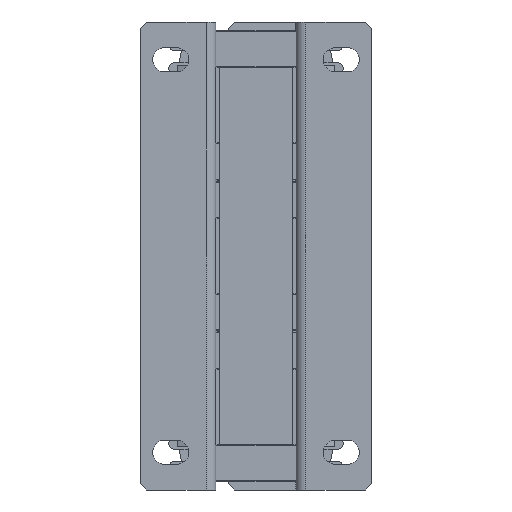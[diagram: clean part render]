
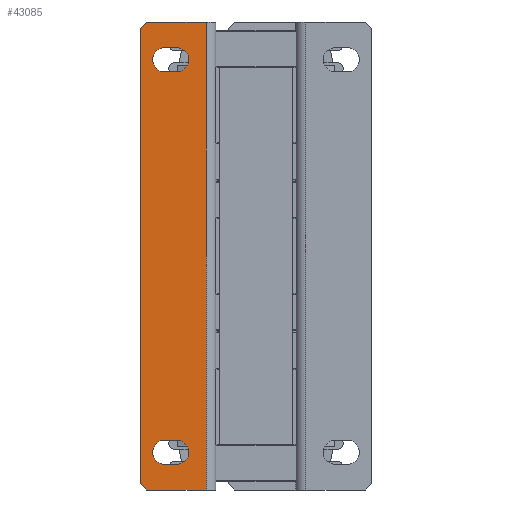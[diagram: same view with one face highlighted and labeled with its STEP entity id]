
A CAD part, front view. The second image highlights one B-rep face of the part: STEP entity #43085.
In plain terms, the highlighted planar face has unit normal (0, -1, 0) as drawn and (0, 0, 1) by its records, which use the part's own axes.
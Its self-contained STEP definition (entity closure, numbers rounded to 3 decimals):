
#62 = CARTESIAN_POINT ( 'NONE',  ( 142.5, 17., 0. ) ) ;
#64 = DIRECTION ( 'NONE',  ( 0., 0., -1. ) ) ;
#65 = DIRECTION ( 'NONE',  ( -1., 0., 0. ) ) ;
#118 = CARTESIAN_POINT ( 'NONE',  ( 138.5, 17., 0. ) ) ;
#119 = DIRECTION ( 'NONE',  ( 0., -1., 0. ) ) ;
#141 = CARTESIAN_POINT ( 'NONE',  ( 12.5, 13., 0. ) ) ;
#155 = DIRECTION ( 'NONE',  ( 0., 0., -1. ) ) ;
#156 = DIRECTION ( 'NONE',  ( -1., 0., 0. ) ) ;
#168 = CARTESIAN_POINT ( 'NONE',  ( 155., 25., 0. ) ) ;
#171 = DIRECTION ( 'NONE',  ( 0., 1., 0. ) ) ;
#4533 = VERTEX_POINT ( 'NONE', #18847 ) ;
#4535 = VERTEX_POINT ( 'NONE', #18967 ) ;
#4553 = VERTEX_POINT ( 'NONE', #18706 ) ;
#4577 = VERTEX_POINT ( 'NONE', #18814 ) ;
#4619 = VERTEX_POINT ( 'NONE', #19008 ) ;
#4635 = VERTEX_POINT ( 'NONE', #18742 ) ;
#4638 = VERTEX_POINT ( 'NONE', #18740 ) ;
#4712 = VERTEX_POINT ( 'NONE', #18718 ) ;
#4726 = LINE ( 'NONE', #44915, #4763 ) ;
#4763 = VECTOR ( 'NONE', #44917, 1000. ) ;
#4770 = VERTEX_POINT ( 'NONE', #18923 ) ;
#4782 = VERTEX_POINT ( 'NONE', #18834 ) ;
#4842 = LINE ( 'NONE', #44968, #4861 ) ;
#4861 = VECTOR ( 'NONE', #44973, 1000. ) ;
#4937 = VERTEX_POINT ( 'NONE', #18792 ) ;
#5007 = LINE ( 'NONE', #45061, #5037 ) ;
#5037 = VECTOR ( 'NONE', #45064, 1000. ) ;
#5100 = VERTEX_POINT ( 'NONE', #24919 ) ;
#5161 = VERTEX_POINT ( 'NONE', #25001 ) ;
#5218 = LINE ( 'NONE', #45211, #5219 ) ;
#5219 = VECTOR ( 'NONE', #45212, 1000. ) ;
#5278 = CIRCLE ( 'NONE', #17401, 4. ) ;
#5300 = LINE ( 'NONE', #118, #5301 ) ;
#5301 = VECTOR ( 'NONE', #119, 1000. ) ;
#5331 = LINE ( 'NONE', #168, #5341 ) ;
#5333 = CIRCLE ( 'NONE', #17414, 4. ) ;
#5341 = VECTOR ( 'NONE', #171, 1000. ) ;
#5500 = VECTOR ( 'NONE', #33834, 1000. ) ;
#5509 = LINE ( 'NONE', #33833, #5500 ) ;
#5513 = LINE ( 'NONE', #33838, #25493 ) ;
#6274 = PLANE ( 'NONE',  #17859 ) ;
#6283 = CARTESIAN_POINT ( 'NONE',  ( 0., 25., 0. ) ) ;
#6285 = DIRECTION ( 'NONE',  ( 0., 0., -1. ) ) ;
#6286 = DIRECTION ( 'NONE',  ( -1., 0., 0. ) ) ;
#13439 = ORIENTED_EDGE ( 'NONE', *, *, #40703, .F. ) ;
#13567 = ORIENTED_EDGE ( 'NONE', *, *, #40439, .T. ) ;
#13651 = ORIENTED_EDGE ( 'NONE', *, *, #40711, .T. ) ;
#13655 = ORIENTED_EDGE ( 'NONE', *, *, #40472, .T. ) ;
#13662 = ORIENTED_EDGE ( 'NONE', *, *, #40350, .T. ) ;
#13664 = ORIENTED_EDGE ( 'NONE', *, *, #40456, .F. ) ;
#13669 = ORIENTED_EDGE ( 'NONE', *, *, #40308, .T. ) ;
#13686 = ORIENTED_EDGE ( 'NONE', *, *, #40407, .T. ) ;
#13692 = ORIENTED_EDGE ( 'NONE', *, *, #40569, .T. ) ;
#15780 = ORIENTED_EDGE ( 'NONE', *, *, #40674, .F. ) ;
#15786 = ORIENTED_EDGE ( 'NONE', *, *, #40478, .T. ) ;
#17401 = AXIS2_PLACEMENT_3D ( 'NONE', #62, #64, #65 ) ;
#17414 = AXIS2_PLACEMENT_3D ( 'NONE', #141, #155, #156 ) ;
#17439 = AXIS2_PLACEMENT_3D ( 'NONE', #33821, #33836, #33837 ) ;
#17458 = AXIS2_PLACEMENT_3D ( 'NONE', #34124, #34152, #34153 ) ;
#17859 = AXIS2_PLACEMENT_3D ( 'NONE', #6283, #6285, #6286 ) ;
#18652 = VERTEX_POINT ( 'NONE', #19907 ) ;
#18706 = CARTESIAN_POINT ( 'NONE',  ( 146.5, 17., 0. ) ) ;
#18718 = CARTESIAN_POINT ( 'NONE',  ( 8.5, 13., 0. ) ) ;
#18740 = CARTESIAN_POINT ( 'NONE',  ( 153., 25., 0. ) ) ;
#18742 = CARTESIAN_POINT ( 'NONE',  ( 138.5, 13., 0. ) ) ;
#18792 = CARTESIAN_POINT ( 'NONE',  ( 155., 3.237, 0. ) ) ;
#18814 = CARTESIAN_POINT ( 'NONE',  ( 16.5, 13., 0. ) ) ;
#18834 = CARTESIAN_POINT ( 'NONE',  ( 138.5, 17., 0. ) ) ;
#18847 = CARTESIAN_POINT ( 'NONE',  ( 0., 3.237, 0. ) ) ;
#18923 = CARTESIAN_POINT ( 'NONE',  ( 146.5, 13., 0. ) ) ;
#18967 = CARTESIAN_POINT ( 'NONE',  ( 2., 25., 0. ) ) ;
#19008 = CARTESIAN_POINT ( 'NONE',  ( 0., 23., 0. ) ) ;
#19907 = CARTESIAN_POINT ( 'NONE',  ( 8.5, 17., 0. ) ) ;
#23557 = FACE_BOUND ( 'NONE', #35902, .T. ) ;
#23560 = FACE_OUTER_BOUND ( 'NONE', #35917, .T. ) ;
#23562 = FACE_BOUND ( 'NONE', #35895, .T. ) ;
#24919 = CARTESIAN_POINT ( 'NONE',  ( 155., 23., 0. ) ) ;
#25001 = CARTESIAN_POINT ( 'NONE',  ( 16.5, 17., 0. ) ) ;
#25483 = ORIENTED_EDGE ( 'NONE', *, *, #40284, .F. ) ;
#25493 = VECTOR ( 'NONE', #33839, 1000. ) ;
#25497 = CIRCLE ( 'NONE', #17439, 4. ) ;
#25790 = LINE ( 'NONE', #34085, #25798 ) ;
#25798 = VECTOR ( 'NONE', #34086, 1000. ) ;
#25918 = CIRCLE ( 'NONE', #17458, 4. ) ;
#25939 = LINE ( 'NONE', #34170, #25941 ) ;
#25941 = VECTOR ( 'NONE', #34171, 1000. ) ;
#33821 = CARTESIAN_POINT ( 'NONE',  ( 12.5, 17., 0. ) ) ;
#33833 = CARTESIAN_POINT ( 'NONE',  ( 0., 25., 0. ) ) ;
#33834 = DIRECTION ( 'NONE',  ( 0., -1., 0. ) ) ;
#33836 = DIRECTION ( 'NONE',  ( 0., 0., -1. ) ) ;
#33837 = DIRECTION ( 'NONE',  ( -1., 0., 0. ) ) ;
#33838 = CARTESIAN_POINT ( 'NONE',  ( 0., 25., 0. ) ) ;
#33839 = DIRECTION ( 'NONE',  ( -1., 0., 0. ) ) ;
#34085 = CARTESIAN_POINT ( 'NONE',  ( 0., 3.237, 0. ) ) ;
#34086 = DIRECTION ( 'NONE',  ( -1., 0., 0. ) ) ;
#34124 = CARTESIAN_POINT ( 'NONE',  ( 142.5, 13., 0. ) ) ;
#34152 = DIRECTION ( 'NONE',  ( 0., 0., 1. ) ) ;
#34153 = DIRECTION ( 'NONE',  ( 1., 0., 0. ) ) ;
#34170 = CARTESIAN_POINT ( 'NONE',  ( 16.5, 17., 0. ) ) ;
#34171 = DIRECTION ( 'NONE',  ( 0., -1., 0. ) ) ;
#35895 = EDGE_LOOP ( 'NONE', ( #13567, #13662, #13439, #13664 ) ) ;
#35902 = EDGE_LOOP ( 'NONE', ( #13692, #13651, #13655, #25483 ) ) ;
#35917 = EDGE_LOOP ( 'NONE', ( #15786, #13686, #39406, #13669, #39427, #15780 ) ) ;
#39406 = ORIENTED_EDGE ( 'NONE', *, *, #40570, .T. ) ;
#39427 = ORIENTED_EDGE ( 'NONE', *, *, #40568, .T. ) ;
#40284 = EDGE_CURVE ( 'NONE', #18652, #4712, #4726, .T. ) ;
#40308 = EDGE_CURVE ( 'NONE', #4535, #4619, #4842, .T. ) ;
#40350 = EDGE_CURVE ( 'NONE', #4553, #4770, #5007, .T. ) ;
#40407 = EDGE_CURVE ( 'NONE', #5100, #4638, #5218, .T. ) ;
#40439 = EDGE_CURVE ( 'NONE', #4782, #4553, #5278, .T. ) ;
#40456 = EDGE_CURVE ( 'NONE', #4782, #4635, #5300, .T. ) ;
#40472 = EDGE_CURVE ( 'NONE', #4577, #4712, #5333, .T. ) ;
#40478 = EDGE_CURVE ( 'NONE', #4937, #5100, #5331, .T. ) ;
#40568 = EDGE_CURVE ( 'NONE', #4619, #4533, #5509, .T. ) ;
#40569 = EDGE_CURVE ( 'NONE', #18652, #5161, #25497, .T. ) ;
#40570 = EDGE_CURVE ( 'NONE', #4638, #4535, #5513, .T. ) ;
#40674 = EDGE_CURVE ( 'NONE', #4937, #4533, #25790, .T. ) ;
#40703 = EDGE_CURVE ( 'NONE', #4635, #4770, #25918, .T. ) ;
#40711 = EDGE_CURVE ( 'NONE', #5161, #4577, #25939, .T. ) ;
#43085 = ADVANCED_FACE ( 'NONE', ( #23557, #23560, #23562 ), #6274, .F. ) ;
#44915 = CARTESIAN_POINT ( 'NONE',  ( 8.5, 17., 0. ) ) ;
#44917 = DIRECTION ( 'NONE',  ( 0., -1., 0. ) ) ;
#44968 = CARTESIAN_POINT ( 'NONE',  ( 0., 23., 0. ) ) ;
#44973 = DIRECTION ( 'NONE',  ( -0.707, -0.707, 0. ) ) ;
#45061 = CARTESIAN_POINT ( 'NONE',  ( 146.5, 17., 0. ) ) ;
#45064 = DIRECTION ( 'NONE',  ( 0., -1., 0. ) ) ;
#45211 = CARTESIAN_POINT ( 'NONE',  ( 153., 25., 0. ) ) ;
#45212 = DIRECTION ( 'NONE',  ( -0.707, 0.707, 0. ) ) ;
